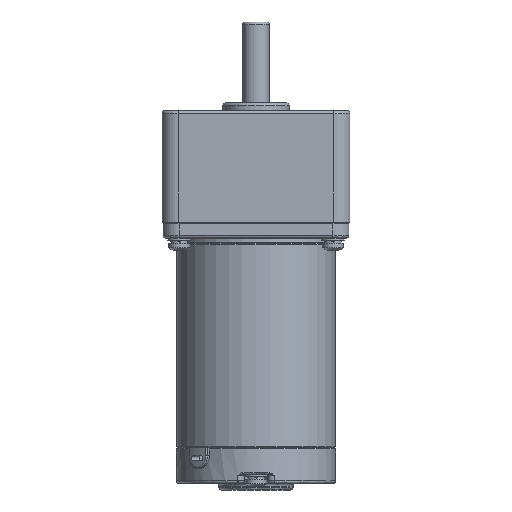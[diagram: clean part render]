
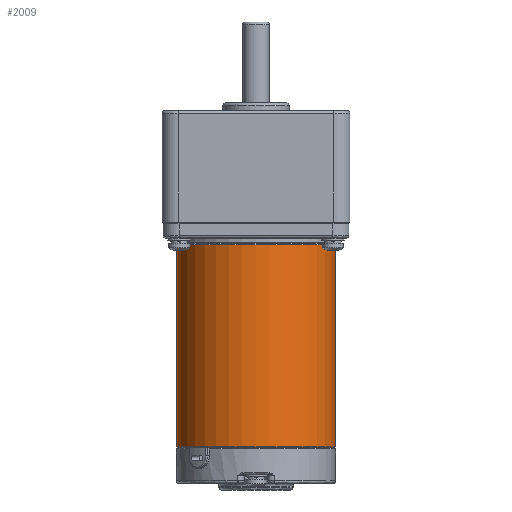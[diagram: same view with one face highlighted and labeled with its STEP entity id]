
A CAD part, front view. The second image highlights one B-rep face of the part: STEP entity #2009.
In plain terms, the highlighted cylindrical face has radius 30 mm (diameter 60 mm), a partial arc.
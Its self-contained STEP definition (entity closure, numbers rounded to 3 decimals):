
#43 = DIRECTION ( 'NONE',  ( 0., 0., 1. ) ) ;
#166 = VERTEX_POINT ( 'NONE', #1250 ) ;
#299 = DIRECTION ( 'NONE',  ( 0., 1., 0. ) ) ;
#419 = ORIENTED_EDGE ( 'NONE', *, *, #1373, .T. ) ;
#945 = VECTOR ( 'NONE', #4616, 1000. ) ;
#960 = DIRECTION ( 'NONE',  ( 0., -1., 0. ) ) ;
#1205 = VERTEX_POINT ( 'NONE', #10024 ) ;
#1250 = CARTESIAN_POINT ( 'NONE',  ( 0., 0.3, 30. ) ) ;
#1373 = EDGE_CURVE ( 'NONE', #1205, #8297, #10763, .T. ) ;
#2009 = ADVANCED_FACE ( 'NONE', ( #6002 ), #4956, .T. ) ;
#2391 = VECTOR ( 'NONE', #299, 1000. ) ;
#2662 = EDGE_CURVE ( 'NONE', #8231, #1205, #2887, .T. ) ;
#2747 = ORIENTED_EDGE ( 'NONE', *, *, #5137, .F. ) ;
#2819 = CIRCLE ( 'NONE', #9253, 30. ) ;
#2887 = LINE ( 'NONE', #9663, #2391 ) ;
#2925 = CARTESIAN_POINT ( 'NONE',  ( 0., 76.5, 0. ) ) ;
#3941 = AXIS2_PLACEMENT_3D ( 'NONE', #2925, #960, #43 ) ;
#4407 = CARTESIAN_POINT ( 'NONE',  ( 0., 0.3, 0. ) ) ;
#4469 = CARTESIAN_POINT ( 'NONE',  ( 0., 0.3, -30. ) ) ;
#4591 = DIRECTION ( 'NONE',  ( 0., 1., 0. ) ) ;
#4616 = DIRECTION ( 'NONE',  ( 0., 1., 0. ) ) ;
#4790 = CARTESIAN_POINT ( 'NONE',  ( 0., 0., 30. ) ) ;
#4956 = CYLINDRICAL_SURFACE ( 'NONE', #10188, 30. ) ;
#5137 = EDGE_CURVE ( 'NONE', #166, #8297, #11233, .T. ) ;
#6002 = FACE_OUTER_BOUND ( 'NONE', #8879, .T. ) ;
#6413 = DIRECTION ( 'NONE',  ( 0., 0., 1. ) ) ;
#6490 = ORIENTED_EDGE ( 'NONE', *, *, #8246, .T. ) ;
#7035 = ORIENTED_EDGE ( 'NONE', *, *, #2662, .T. ) ;
#7834 = CARTESIAN_POINT ( 'NONE',  ( 0., 0., 0. ) ) ;
#8231 = VERTEX_POINT ( 'NONE', #4469 ) ;
#8246 = EDGE_CURVE ( 'NONE', #166, #8231, #2819, .T. ) ;
#8297 = VERTEX_POINT ( 'NONE', #9538 ) ;
#8879 = EDGE_LOOP ( 'NONE', ( #6490, #7035, #419, #2747 ) ) ;
#9253 = AXIS2_PLACEMENT_3D ( 'NONE', #4407, #4591, #6413 ) ;
#9538 = CARTESIAN_POINT ( 'NONE',  ( 0., 76.5, 30. ) ) ;
#9663 = CARTESIAN_POINT ( 'NONE',  ( 0., 0., -30. ) ) ;
#10024 = CARTESIAN_POINT ( 'NONE',  ( 0., 76.5, -30. ) ) ;
#10188 = AXIS2_PLACEMENT_3D ( 'NONE', #7834, #10665, #10604 ) ;
#10604 = DIRECTION ( 'NONE',  ( 0., 0., 1. ) ) ;
#10665 = DIRECTION ( 'NONE',  ( 0., 1., 0. ) ) ;
#10763 = CIRCLE ( 'NONE', #3941, 30. ) ;
#11233 = LINE ( 'NONE', #4790, #945 ) ;
